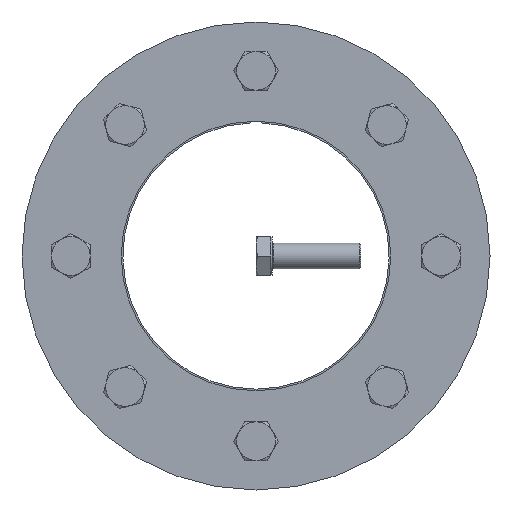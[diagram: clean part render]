
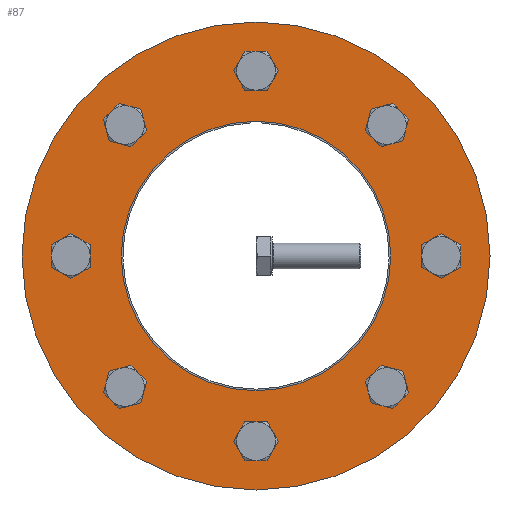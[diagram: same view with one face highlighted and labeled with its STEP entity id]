
A CAD part, front view. The second image highlights one B-rep face of the part: STEP entity #87.
In plain terms, the highlighted planar face has unit normal (0, -1, 0).
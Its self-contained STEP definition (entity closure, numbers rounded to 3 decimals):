
#87 = ADVANCED_FACE( '', ( #201, #202, #203, #204, #205, #206, #207, #208, #209, #210 ), #211, .F. );
#201 = FACE_BOUND( '', #406, .T. );
#202 = FACE_BOUND( '', #407, .T. );
#203 = FACE_BOUND( '', #408, .T. );
#204 = FACE_BOUND( '', #409, .T. );
#205 = FACE_BOUND( '', #410, .T. );
#206 = FACE_OUTER_BOUND( '', #411, .T. );
#207 = FACE_BOUND( '', #412, .T. );
#208 = FACE_BOUND( '', #413, .T. );
#209 = FACE_BOUND( '', #414, .T. );
#210 = FACE_BOUND( '', #415, .T. );
#211 = PLANE( '', #416 );
#406 = EDGE_LOOP( '', ( #643 ) );
#407 = EDGE_LOOP( '', ( #644 ) );
#408 = EDGE_LOOP( '', ( #645 ) );
#409 = EDGE_LOOP( '', ( #646 ) );
#410 = EDGE_LOOP( '', ( #647 ) );
#411 = EDGE_LOOP( '', ( #648 ) );
#412 = EDGE_LOOP( '', ( #649 ) );
#413 = EDGE_LOOP( '', ( #650 ) );
#414 = EDGE_LOOP( '', ( #651 ) );
#415 = EDGE_LOOP( '', ( #652 ) );
#416 = AXIS2_PLACEMENT_3D( '', #653, #654, #655 );
#643 = ORIENTED_EDGE( '', *, *, #1003, .T. );
#644 = ORIENTED_EDGE( '', *, *, #1004, .T. );
#645 = ORIENTED_EDGE( '', *, *, #1005, .T. );
#646 = ORIENTED_EDGE( '', *, *, #1006, .T. );
#647 = ORIENTED_EDGE( '', *, *, #1007, .F. );
#648 = ORIENTED_EDGE( '', *, *, #1008, .T. );
#649 = ORIENTED_EDGE( '', *, *, #1009, .T. );
#650 = ORIENTED_EDGE( '', *, *, #1010, .T. );
#651 = ORIENTED_EDGE( '', *, *, #1001, .T. );
#652 = ORIENTED_EDGE( '', *, *, #1011, .T. );
#653 = CARTESIAN_POINT( '', ( 0., -35.5, 145. ) );
#654 = DIRECTION( '', ( 0., 1., 0. ) );
#655 = DIRECTION( '', ( 0., 0., 1. ) );
#1001 = EDGE_CURVE( '', #1181, #1181, #1182, .T. );
#1003 = EDGE_CURVE( '', #1184, #1184, #1185, .T. );
#1004 = EDGE_CURVE( '', #1186, #1186, #1187, .T. );
#1005 = EDGE_CURVE( '', #1188, #1188, #1189, .T. );
#1006 = EDGE_CURVE( '', #1190, #1190, #1191, .T. );
#1007 = EDGE_CURVE( '', #1192, #1192, #1193, .T. );
#1008 = EDGE_CURVE( '', #1194, #1194, #1195, .T. );
#1009 = EDGE_CURVE( '', #1196, #1196, #1197, .T. );
#1010 = EDGE_CURVE( '', #1198, #1198, #1199, .T. );
#1011 = EDGE_CURVE( '', #1200, #1200, #1201, .T. );
#1181 = VERTEX_POINT( '', #1534 );
#1182 = CIRCLE( '', #1535, 8. );
#1184 = VERTEX_POINT( '', #1537 );
#1185 = CIRCLE( '', #1538, 8. );
#1186 = VERTEX_POINT( '', #1539 );
#1187 = CIRCLE( '', #1540, 8. );
#1188 = VERTEX_POINT( '', #1541 );
#1189 = CIRCLE( '', #1542, 8. );
#1190 = VERTEX_POINT( '', #1543 );
#1191 = CIRCLE( '', #1544, 8. );
#1192 = VERTEX_POINT( '', #1545 );
#1193 = CIRCLE( '', #1546, 83.5 );
#1194 = VERTEX_POINT( '', #1547 );
#1195 = CIRCLE( '', #1548, 145. );
#1196 = VERTEX_POINT( '', #1549 );
#1197 = CIRCLE( '', #1550, 8. );
#1198 = VERTEX_POINT( '', #1551 );
#1199 = CIRCLE( '', #1552, 8. );
#1200 = VERTEX_POINT( '', #1553 );
#1201 = CIRCLE( '', #1554, 8. );
#1534 = CARTESIAN_POINT( '', ( -86.797, -35.5, -75.484 ) );
#1535 = AXIS2_PLACEMENT_3D( '', #1797, #1798, #1799 );
#1537 = CARTESIAN_POINT( '', ( -114.75, -35.5, 8. ) );
#1538 = AXIS2_PLACEMENT_3D( '', #1800, #1801, #1802 );
#1539 = CARTESIAN_POINT( '', ( -8., -35.5, -114.75 ) );
#1540 = AXIS2_PLACEMENT_3D( '', #1803, #1804, #1805 );
#1541 = CARTESIAN_POINT( '', ( 114.75, -35.5, -8. ) );
#1542 = AXIS2_PLACEMENT_3D( '', #1806, #1807, #1808 );
#1543 = CARTESIAN_POINT( '', ( 8., -35.5, 114.75 ) );
#1544 = AXIS2_PLACEMENT_3D( '', #1809, #1810, #1811 );
#1545 = CARTESIAN_POINT( '', ( 0., -35.5, -83.5 ) );
#1546 = AXIS2_PLACEMENT_3D( '', #1812, #1813, #1814 );
#1547 = CARTESIAN_POINT( '', ( 0., -35.5, -145. ) );
#1548 = AXIS2_PLACEMENT_3D( '', #1815, #1816, #1817 );
#1549 = CARTESIAN_POINT( '', ( 86.797, -35.5, 75.484 ) );
#1550 = AXIS2_PLACEMENT_3D( '', #1818, #1819, #1820 );
#1551 = CARTESIAN_POINT( '', ( 75.484, -35.5, -86.797 ) );
#1552 = AXIS2_PLACEMENT_3D( '', #1821, #1822, #1823 );
#1553 = CARTESIAN_POINT( '', ( -75.484, -35.5, 86.797 ) );
#1554 = AXIS2_PLACEMENT_3D( '', #1824, #1825, #1826 );
#1797 = CARTESIAN_POINT( '', ( -81.141, -35.5, -81.141 ) );
#1798 = DIRECTION( '', ( 0., 1., 0. ) );
#1799 = DIRECTION( '', ( -0.707, 0., 0.707 ) );
#1800 = CARTESIAN_POINT( '', ( -114.75, -35.5, 0. ) );
#1801 = DIRECTION( '', ( 0., 1., 0. ) );
#1802 = DIRECTION( '', ( 0., 0., 1. ) );
#1803 = CARTESIAN_POINT( '', ( 0., -35.5, -114.75 ) );
#1804 = DIRECTION( '', ( 0., 1., 0. ) );
#1805 = DIRECTION( '', ( -1., 0., 0. ) );
#1806 = CARTESIAN_POINT( '', ( 114.75, -35.5, 0. ) );
#1807 = DIRECTION( '', ( 0., 1., 0. ) );
#1808 = DIRECTION( '', ( 0., 0., -1. ) );
#1809 = CARTESIAN_POINT( '', ( 0., -35.5, 114.75 ) );
#1810 = DIRECTION( '', ( 0., 1., 0. ) );
#1811 = DIRECTION( '', ( 1., 0., 0. ) );
#1812 = CARTESIAN_POINT( '', ( 0., -35.5, 0. ) );
#1813 = DIRECTION( '', ( 0., -1., 0. ) );
#1814 = DIRECTION( '', ( 0., 0., -1. ) );
#1815 = CARTESIAN_POINT( '', ( 0., -35.5, 0. ) );
#1816 = DIRECTION( '', ( 0., -1., 0. ) );
#1817 = DIRECTION( '', ( 0., 0., -1. ) );
#1818 = CARTESIAN_POINT( '', ( 81.141, -35.5, 81.141 ) );
#1819 = DIRECTION( '', ( 0., 1., 0. ) );
#1820 = DIRECTION( '', ( 0.707, 0., -0.707 ) );
#1821 = CARTESIAN_POINT( '', ( 81.141, -35.5, -81.141 ) );
#1822 = DIRECTION( '', ( 0., 1., 0. ) );
#1823 = DIRECTION( '', ( -0.707, 0., -0.707 ) );
#1824 = CARTESIAN_POINT( '', ( -81.141, -35.5, 81.141 ) );
#1825 = DIRECTION( '', ( 0., 1., 0. ) );
#1826 = DIRECTION( '', ( 0.707, 0., 0.707 ) );
